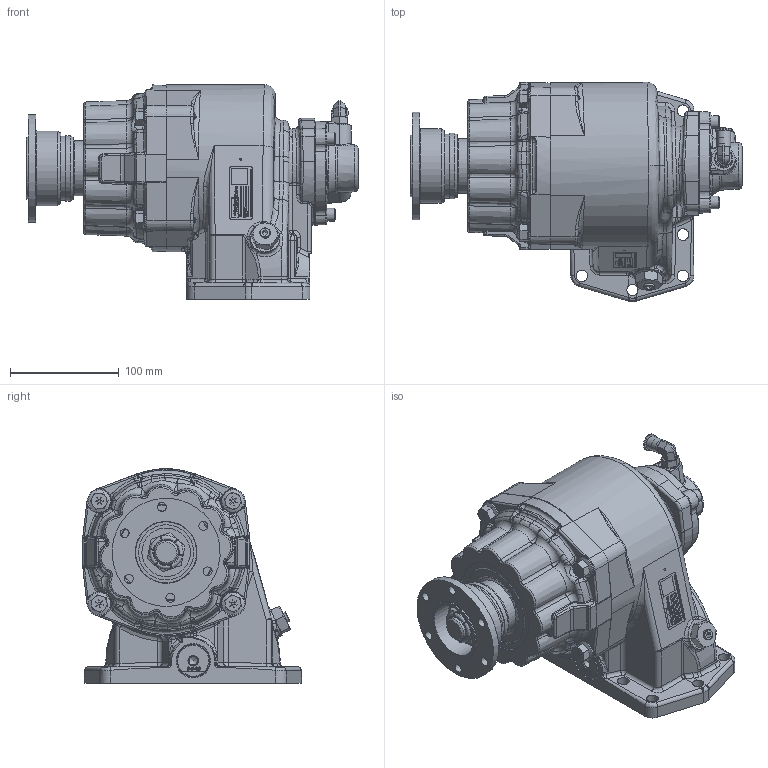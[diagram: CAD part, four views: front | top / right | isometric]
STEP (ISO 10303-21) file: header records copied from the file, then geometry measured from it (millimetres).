
FILE_DESCRIPTION(/* description */ ('PTO ASSEMBLY-878'),/* implementation_level */ '2;1');
FILE_NAME(/* name */ 'D:\CHD\WR-747\Phase 8 & 9\878-5AC\878-5AC.stp',/* time_stamp */ '2024-06-10T18:41:37+05:00',/* author */ ('SP00930886'),/* organization */ (''),/* preprocessor_version */ 'ST-DEVELOPER v18',/* originating_system */ 'Autodesk Inventor 2020',/* authorisation */ '');
FILE_SCHEMA (('AUTOMOTIVE_DESIGN { 1 0 10303 214 3 1 1 }'));
Products named in the file (20): 878-5RZ; 1-P-816; 3-P-1068; 28-P-329; 9-P-99; 378452-7; 378447-6; 379486; 379231; 379242; 21-P-932; 28-P-211; 379742; 21-P-690; 379564-2; 22-P-112; 380563-14; 380076-13; 380486; 68-P-51-1
Assembly tree (24 placements, depth 2):
  878-5RZ
    1-P-816
    3-P-1068
    28-P-329
    9-P-99
    378452-7
    378447-6  x3
    379486
    379231
    379242
    21-P-932
    380563-14  x4
    28-P-211
    379742
    21-P-690
    379564-2
    22-P-112
    380076-13
    380486
    68-P-51-1
Bounding box: 305.56 x 201.72 x 197.5 mm (x, y, z)
Volume: 2150551 mm3; surface area: 489387.7 mm2
Topology: 25 solids, 25 shells, 7091 faces, 18017 edges, 11136 vertices
Faces by surface type: plane 2564, bspline 2080, cylinder 1699, torus 461, cone 264, sphere 23
Full cylindrical faces by diameter (mm): 0.711 x1, 0.813 x1, 2.184 x2, 2.362 x1, 3.175 x8, 3.962 x1, 4.191 x1, 4.318 x1, 4.699 x2, 4.978 x1, 6.35 x3, 6.401 x3, 6.528 x1, 7.137 x1, 7.798 x5, 7.836 x9, 7.95 x1, 8.204 x6, 8.611 x1, 8.712 x3, 8.75 x3, 9.144 x2, 9.525 x12, 9.728 x1, 10.312 x6, 10.719 x8, 10.871 x1, 11.112 x2, 11.76 x3, 12.548 x1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
Entity records: 266205 total; most frequent: CARTESIAN_POINT 107723, ORIENTED_EDGE 34686, DIRECTION 26763, EDGE_CURVE 17343, VERTEX_POINT 10809, AXIS2_PLACEMENT_3D 9099, LINE 8565, VECTOR 8565
